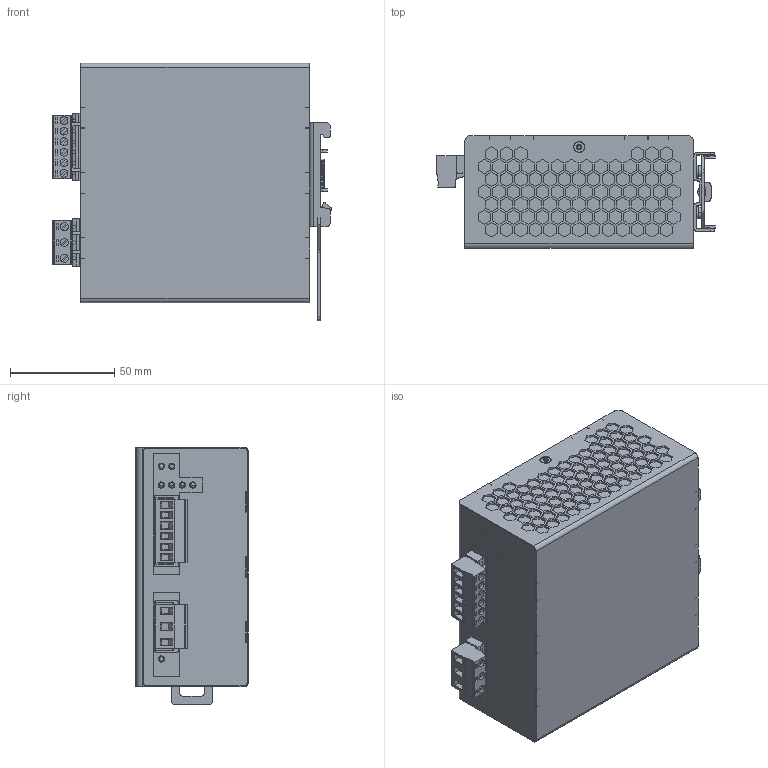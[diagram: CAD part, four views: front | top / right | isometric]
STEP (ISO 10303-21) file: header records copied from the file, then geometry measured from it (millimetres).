
FILE_DESCRIPTION (( 'STEP AP214' ), '1' );
FILE_NAME ('NISO-20_3D_light.STEP', '2016-06-28T14:01:25', ( 'miky' ), ( 'Microsoft' ), 'SwSTEP 2.0', 'SolidWorks 2014', '' );
FILE_SCHEMA (( 'AUTOMOTIVE_DESIGN' ));
Length unit declared in the file: millimetre
Products named in the file (1): NISO-20_3D_light
Bounding box: 134 x 54 x 123.7 mm (x, y, z)
Volume: 689772.8 mm3; surface area: 68224.2 mm2
Topology: 1 solids, 5 shells, 2322 faces, 6265 edges, 4133 vertices
Faces by surface type: plane 1972, cylinder 284, cone 41, sphere 10, torus 8, bspline 7
Entity records: 100561 total; most frequent: CARTESIAN_POINT 15885, ORIENTED_EDGE 12518, DIRECTION 11573, EDGE_CURVE 6259, VECTOR 5381, LINE 5381, VERTEX_POINT 4129, AXIS2_PLACEMENT_3D 3096
